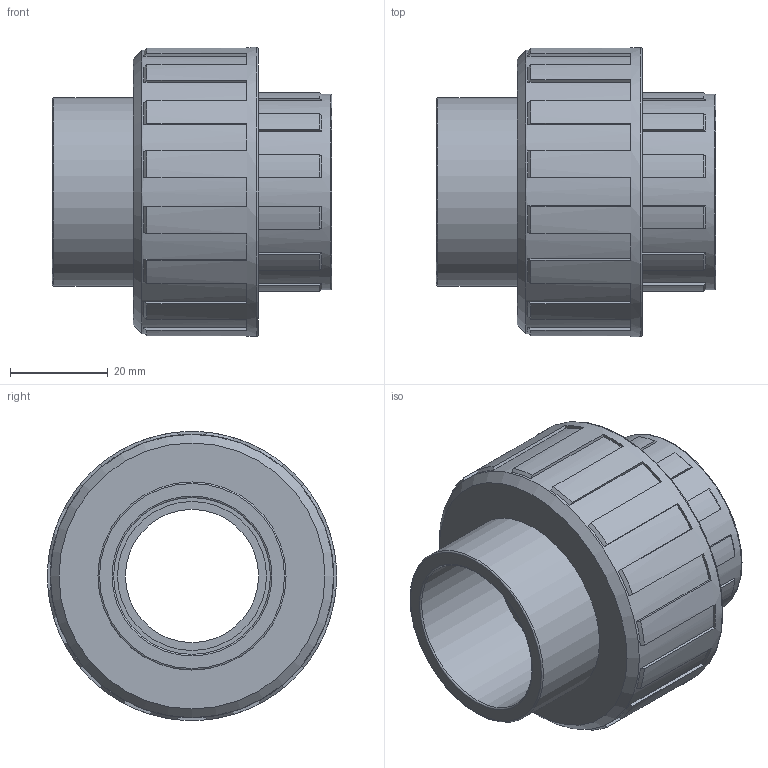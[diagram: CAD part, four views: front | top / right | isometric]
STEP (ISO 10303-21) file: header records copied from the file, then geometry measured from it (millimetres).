
FILE_DESCRIPTION(/* description */ ('PLASSON UNION+O RING THR-CEM 32-1'),/* implementation_level */ '2;1');
FILE_NAME(/* name */ 'C:\Dropbox\KIMPROJECTS-Inventor\99-16-3568-Processing\PVC Catalog 2017\050802\050802032010.ipt.stp',/* time_stamp */ '2017-12-07T15:58:16+02:00',/* author */ ('KIM'),/* organization */ (''),/* preprocessor_version */ 'ST-DEVELOPER v15.6',/* originating_system */ 'Autodesk Inventor 2015',/* authorisation */ '');
FILE_SCHEMA (('AUTOMOTIVE_DESIGN { 1 0 10303 214 3 1 1 }'));
Length unit declared in the file: millimetre
Products named in the file (1): 050802032010
Bounding box: 57 x 59 x 59 mm (x, y, z)
Volume: 65279.6 mm3; surface area: 18500.1 mm2
Topology: 1 solids, 1 shells, 133 faces, 372 edges, 246 vertices
Faces by surface type: plane 79, cone 29, cylinder 20, torus 5
Full cylindrical faces by diameter (mm): 27.2 x1, 30.291 x1, 30.4 x1, 32 x1, 38.4 x1, 40 x1, 57.82 x1, 59 x1
Entity records: 4240 total; most frequent: DIRECTION 754, CARTESIAN_POINT 732, ORIENTED_EDGE 710, EDGE_CURVE 355, AXIS2_PLACEMENT_3D 265, VERTEX_POINT 243, LINE 224, VECTOR 224
